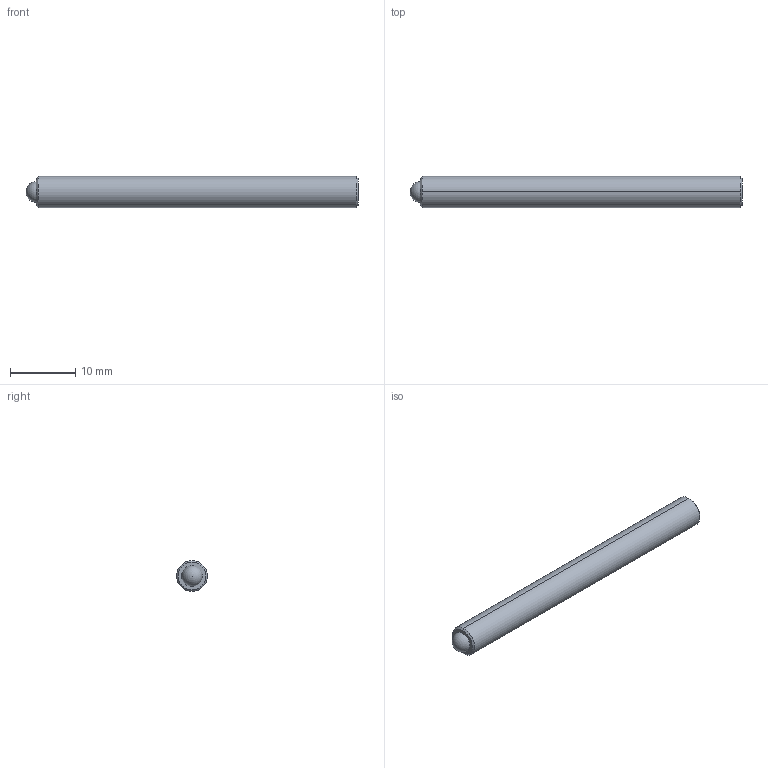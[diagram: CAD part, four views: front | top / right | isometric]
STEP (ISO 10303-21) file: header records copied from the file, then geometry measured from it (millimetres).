
FILE_DESCRIPTION (( 'STEP AP214' ), '1' );
FILE_NAME ('TS187-100-2000-HV.STEP', '2013-05-09T12:33:00', ( 'workpc' ), ( 'Microsoft' ), 'SwSTEP 2.0', 'SolidWorks 2013', '' );
FILE_SCHEMA (( 'AUTOMOTIVE_DESIGN' ));
Length unit declared in the file: inch
Products named in the file (1): TS187-100-2000-HV
Bounding box: 50.8 x 4.75 x 4.75 mm (x, y, z)
Volume: 867.5 mm3; surface area: 828.5 mm2
Topology: 2 solids, 2 shells, 24 faces, 57 edges, 37 vertices
Faces by surface type: plane 10, cylinder 8, cone 4, sphere 2
Entity records: 739 total; most frequent: DIRECTION 124, CARTESIAN_POINT 111, ORIENTED_EDGE 104, EDGE_CURVE 52, AXIS2_PLACEMENT_3D 47, VERTEX_POINT 34, LINE 30, VECTOR 30
